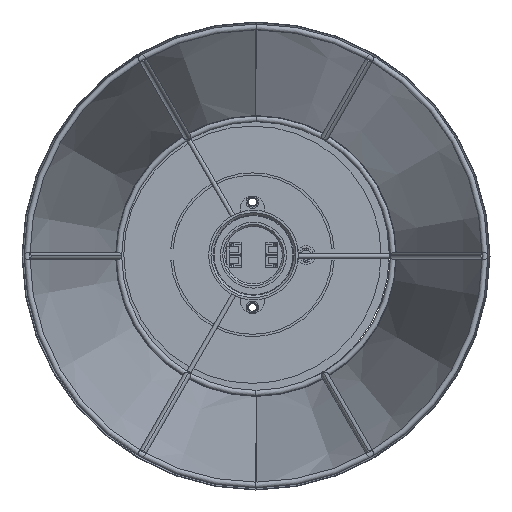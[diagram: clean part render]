
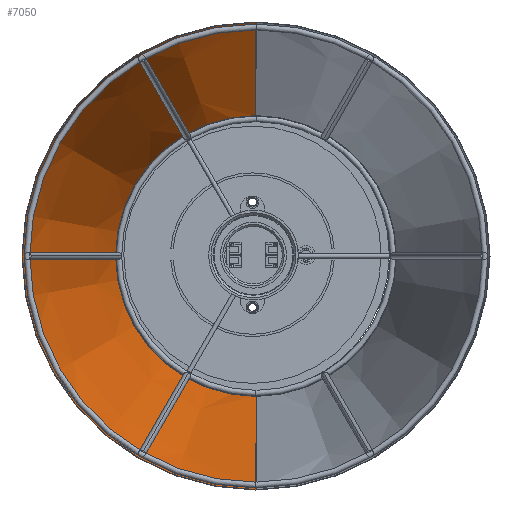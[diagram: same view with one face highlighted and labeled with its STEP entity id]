
A CAD part, front view. The second image highlights one B-rep face of the part: STEP entity #7050.
In plain terms, the highlighted conical face has half-angle 14.04 degrees and reference radius 59.806 mm.
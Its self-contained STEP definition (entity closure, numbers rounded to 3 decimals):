
#163 = EDGE_CURVE ( 'NONE', #21169, #16459, #5055, .T. ) ;
#273 = EDGE_CURVE ( 'NONE', #16459, #2789, #3708, .T. ) ;
#449 = CARTESIAN_POINT ( 'NONE',  ( 0., 158.451, -59.806 ) ) ;
#2789 = VERTEX_POINT ( 'NONE', #3320 ) ;
#2958 = DIRECTION ( 'NONE',  ( 0., 0., -1. ) ) ;
#3320 = CARTESIAN_POINT ( 'NONE',  ( 0., -1.5, -99.806 ) ) ;
#3338 = CARTESIAN_POINT ( 'NONE',  ( 0., 158.451, -59.806 ) ) ;
#3360 = VECTOR ( 'NONE', #13531, 1000. ) ;
#3506 = EDGE_CURVE ( 'NONE', #16282, #2789, #22034, .T. ) ;
#3708 = CIRCLE ( 'NONE', #12298, 99.806 ) ;
#3851 = EDGE_LOOP ( 'NONE', ( #18726, #19402, #7547, #20151 ) ) ;
#5055 = LINE ( 'NONE', #13691, #10631 ) ;
#6202 = FACE_OUTER_BOUND ( 'NONE', #3851, .T. ) ;
#7050 = ADVANCED_FACE ( 'NONE', ( #6202 ), #22069, .F. ) ;
#7547 = ORIENTED_EDGE ( 'NONE', *, *, #273, .T. ) ;
#8615 = CIRCLE ( 'NONE', #13232, 59.806 ) ;
#9121 = CARTESIAN_POINT ( 'NONE',  ( 0., -1.5, 99.806 ) ) ;
#10631 = VECTOR ( 'NONE', #11908, 1000. ) ;
#11004 = CARTESIAN_POINT ( 'NONE',  ( 0., -1.5, 0. ) ) ;
#11321 = AXIS2_PLACEMENT_3D ( 'NONE', #13147, #13031, #2958 ) ;
#11607 = EDGE_CURVE ( 'NONE', #21169, #16282, #8615, .T. ) ;
#11908 = DIRECTION ( 'NONE',  ( 0., -0.97, 0.243 ) ) ;
#12298 = AXIS2_PLACEMENT_3D ( 'NONE', #11004, #14255, #17400 ) ;
#13001 = DIRECTION ( 'NONE',  ( 0., -1., 0. ) ) ;
#13031 = DIRECTION ( 'NONE',  ( 0., -1., 0. ) ) ;
#13147 = CARTESIAN_POINT ( 'NONE',  ( 0., 158.451, 0. ) ) ;
#13232 = AXIS2_PLACEMENT_3D ( 'NONE', #19825, #13001, #21290 ) ;
#13375 = CARTESIAN_POINT ( 'NONE',  ( 0., 158.451, 59.806 ) ) ;
#13531 = DIRECTION ( 'NONE',  ( 0., -0.97, -0.243 ) ) ;
#13691 = CARTESIAN_POINT ( 'NONE',  ( 0., 158.451, 59.806 ) ) ;
#14255 = DIRECTION ( 'NONE',  ( 0., -1., 0. ) ) ;
#16282 = VERTEX_POINT ( 'NONE', #449 ) ;
#16459 = VERTEX_POINT ( 'NONE', #9121 ) ;
#17400 = DIRECTION ( 'NONE',  ( 0., 0., -1. ) ) ;
#18726 = ORIENTED_EDGE ( 'NONE', *, *, #11607, .F. ) ;
#19402 = ORIENTED_EDGE ( 'NONE', *, *, #163, .T. ) ;
#19825 = CARTESIAN_POINT ( 'NONE',  ( 0., 158.451, 0. ) ) ;
#20151 = ORIENTED_EDGE ( 'NONE', *, *, #3506, .F. ) ;
#21169 = VERTEX_POINT ( 'NONE', #13375 ) ;
#21290 = DIRECTION ( 'NONE',  ( 0., 0., -1. ) ) ;
#22034 = LINE ( 'NONE', #3338, #3360 ) ;
#22069 = CONICAL_SURFACE ( 'NONE', #11321, 59.806, 0.245 ) ;
